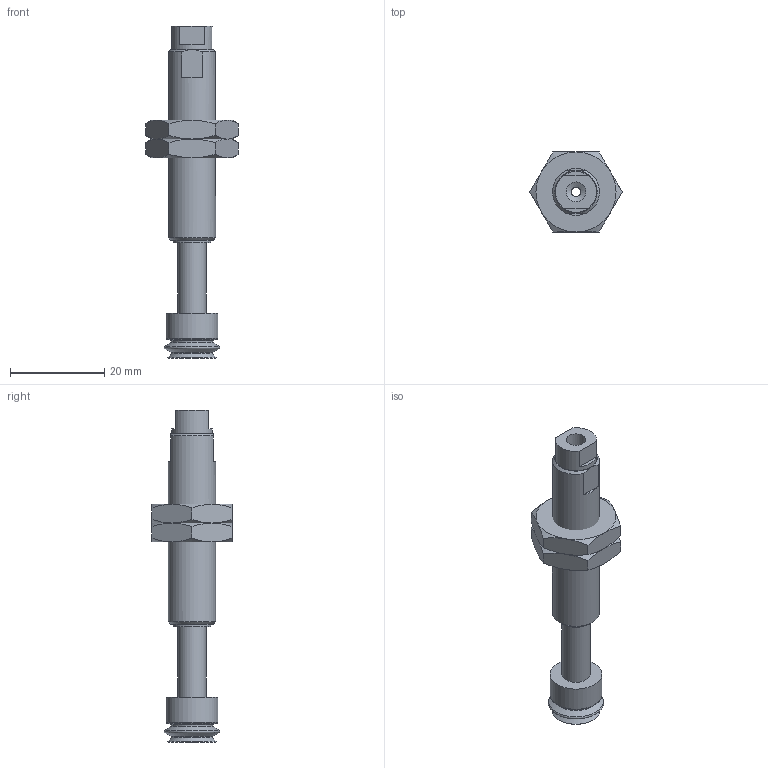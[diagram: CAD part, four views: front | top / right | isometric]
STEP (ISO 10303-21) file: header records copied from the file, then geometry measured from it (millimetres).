
FILE_DESCRIPTION(('STEP AP203'),'1');
FILE_NAME('-LB.stp','2025-10-10T06:02:34',(' '),(' '),'Spatial InterOp 3D',' ',' ');
FILE_SCHEMA(('CONFIG_CONTROL_DESIGN'));
Length unit declared in the file: millimetre
Products named in the file (7): BNABPJTH-10-15-※-LB; NUT; __; BODY; BPJG-10-_; TN-PF-15-M5
Assembly tree (6 placements, depth 2):
  BNABPJTH-10-15-※-LB
    NUT
    NUT
    __
    BODY
    BPJG-10-_
    TN-PF-15-M5
Bounding box: 19.63 x 17 x 70.5 mm (x, y, z)
Volume: 5712.4 mm3; surface area: 4822 mm2
Topology: 6 solids, 6 shells, 103 faces, 222 edges, 136 vertices
Faces by surface type: plane 43, cone 37, cylinder 16, torus 7
Full cylindrical faces by diameter (mm): 2 x1, 2.5 x1, 4.2 x2, 4.6 x1, 5 x1, 6 x1, 6.266 x1, 7.8 x1, 8 x2, 8.7 x1, 9 x2, 10 x1, 11 x1
Entity records: 2968 total; most frequent: CARTESIAN_POINT 618, DIRECTION 424, ORIENTED_EDGE 352, AXIS2_PLACEMENT_3D 190, EDGE_CURVE 176, EDGE_LOOP 154, FACE_OUTER_BOUND 126, VERTEX_POINT 124
